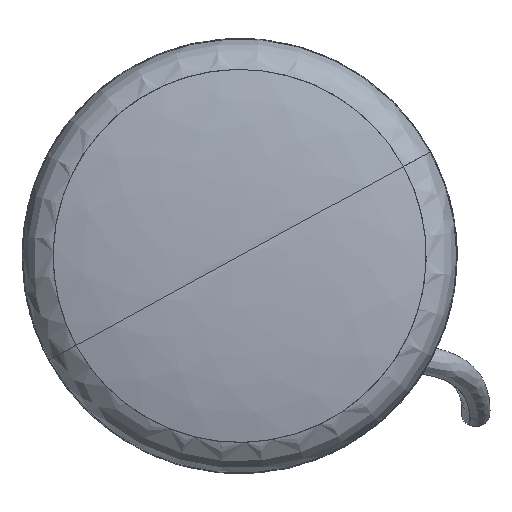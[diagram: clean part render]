
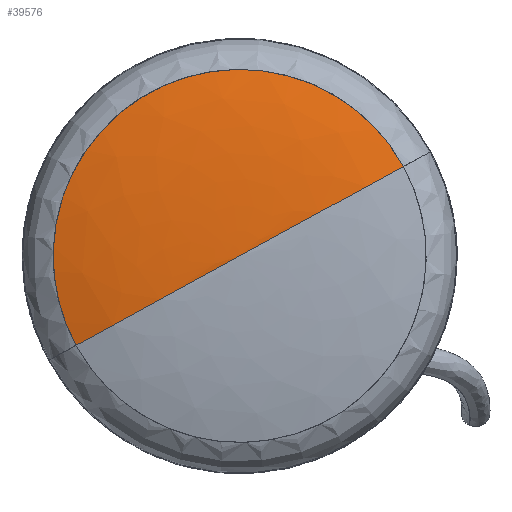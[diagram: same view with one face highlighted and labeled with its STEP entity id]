
A CAD part, top view. The second image highlights one B-rep face of the part: STEP entity #39576.
In plain terms, the highlighted free-form (B-spline) face has degree [5, 8] with [8, 9] control points.
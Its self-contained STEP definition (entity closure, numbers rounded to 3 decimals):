
#39448=CARTESIAN_POINT('Control Point',(31.208,17.049,16.424)) ;
#39449=CARTESIAN_POINT('Control Point',(24.513,29.304,16.424)) ;
#39450=CARTESIAN_POINT('Control Point',(12.316,38.554,16.424)) ;
#39451=CARTESIAN_POINT('Control Point',(-3.797,41.923,16.424)) ;
#39452=CARTESIAN_POINT('Control Point',(-20.49,37.506,16.424)) ;
#39453=CARTESIAN_POINT('Control Point',(-33.225,25.847,16.424)) ;
#39454=CARTESIAN_POINT('Control Point',(-39.096,10.468,16.424)) ;
#39455=CARTESIAN_POINT('Control Point',(-37.903,-4.794,16.424)) ;
#39456=CARTESIAN_POINT('Control Point',(-31.208,-17.049,16.424)) ;
#39457=CARTESIAN_POINT('Control Point',(29.561,16.149,16.951)) ;
#39458=CARTESIAN_POINT('Control Point',(23.22,27.758,16.951)) ;
#39459=CARTESIAN_POINT('Control Point',(11.666,36.52,16.951)) ;
#39460=CARTESIAN_POINT('Control Point',(-3.597,39.711,16.951)) ;
#39461=CARTESIAN_POINT('Control Point',(-19.408,35.527,16.951)) ;
#39462=CARTESIAN_POINT('Control Point',(-31.472,24.483,16.951)) ;
#39463=CARTESIAN_POINT('Control Point',(-37.033,9.915,16.951)) ;
#39464=CARTESIAN_POINT('Control Point',(-35.903,-4.541,16.951)) ;
#39465=CARTESIAN_POINT('Control Point',(-29.561,-16.149,16.951)) ;
#39466=CARTESIAN_POINT('Control Point',(26.237,14.333,17.797)) ;
#39467=CARTESIAN_POINT('Control Point',(20.609,24.637,17.797)) ;
#39468=CARTESIAN_POINT('Control Point',(10.354,32.413,17.797)) ;
#39469=CARTESIAN_POINT('Control Point',(-3.193,35.246,17.797)) ;
#39470=CARTESIAN_POINT('Control Point',(-17.226,31.532,17.797)) ;
#39471=CARTESIAN_POINT('Control Point',(-27.933,21.73,17.797)) ;
#39472=CARTESIAN_POINT('Control Point',(-32.869,8.8,17.797)) ;
#39473=CARTESIAN_POINT('Control Point',(-31.866,-4.03,17.797)) ;
#39474=CARTESIAN_POINT('Control Point',(-26.237,-14.333,17.797)) ;
#39475=CARTESIAN_POINT('Control Point',(19.705,10.765,18.91)) ;
#39476=CARTESIAN_POINT('Control Point',(15.478,18.503,18.91)) ;
#39477=CARTESIAN_POINT('Control Point',(7.776,24.344,18.91)) ;
#39478=CARTESIAN_POINT('Control Point',(-2.398,26.471,18.91)) ;
#39479=CARTESIAN_POINT('Control Point',(-12.937,23.682,18.91)) ;
#39480=CARTESIAN_POINT('Control Point',(-20.979,16.32,18.91)) ;
#39481=CARTESIAN_POINT('Control Point',(-24.686,6.609,18.91)) ;
#39482=CARTESIAN_POINT('Control Point',(-23.933,-3.027,18.91)) ;
#39483=CARTESIAN_POINT('Control Point',(-19.705,-10.765,18.91)) ;
#39484=CARTESIAN_POINT('Control Point',(13.483,7.366,19.399)) ;
#39485=CARTESIAN_POINT('Control Point',(10.591,12.661,19.399)) ;
#39486=CARTESIAN_POINT('Control Point',(5.321,16.657,19.399)) ;
#39487=CARTESIAN_POINT('Control Point',(-1.641,18.113,19.399)) ;
#39488=CARTESIAN_POINT('Control Point',(-8.852,16.204,19.399)) ;
#39489=CARTESIAN_POINT('Control Point',(-14.355,11.167,19.399)) ;
#39490=CARTESIAN_POINT('Control Point',(-16.891,4.522,19.399)) ;
#39491=CARTESIAN_POINT('Control Point',(-16.376,-2.071,19.399)) ;
#39492=CARTESIAN_POINT('Control Point',(-13.483,-7.366,19.399)) ;
#39493=CARTESIAN_POINT('Control Point',(7.432,4.06,19.631)) ;
#39494=CARTESIAN_POINT('Control Point',(5.838,6.979,19.631)) ;
#39495=CARTESIAN_POINT('Control Point',(2.933,9.182,19.631)) ;
#39496=CARTESIAN_POINT('Control Point',(-0.904,9.984,19.631)) ;
#39497=CARTESIAN_POINT('Control Point',(-4.88,8.932,19.631)) ;
#39498=CARTESIAN_POINT('Control Point',(-7.913,6.155,19.631)) ;
#39499=CARTESIAN_POINT('Control Point',(-9.311,2.493,19.631)) ;
#39500=CARTESIAN_POINT('Control Point',(-9.027,-1.142,19.631)) ;
#39501=CARTESIAN_POINT('Control Point',(-7.432,-4.06,19.631)) ;
#39502=CARTESIAN_POINT('Control Point',(2.959,1.617,19.691)) ;
#39503=CARTESIAN_POINT('Control Point',(2.324,2.779,19.691)) ;
#39504=CARTESIAN_POINT('Control Point',(1.168,3.656,19.691)) ;
#39505=CARTESIAN_POINT('Control Point',(-0.36,3.975,19.691)) ;
#39506=CARTESIAN_POINT('Control Point',(-1.943,3.556,19.691)) ;
#39507=CARTESIAN_POINT('Control Point',(-3.15,2.451,19.691)) ;
#39508=CARTESIAN_POINT('Control Point',(-3.707,0.992,19.691)) ;
#39509=CARTESIAN_POINT('Control Point',(-3.594,-0.455,19.691)) ;
#39510=CARTESIAN_POINT('Control Point',(-2.959,-1.617,19.691)) ;
#39511=CARTESIAN_POINT('Control Point',(0.,0.,19.691)) ;
#39512=CARTESIAN_POINT('Control Point',(0.,0.,19.691)) ;
#39513=CARTESIAN_POINT('Control Point',(0.,0.,19.691)) ;
#39514=CARTESIAN_POINT('Control Point',(0.,0.,19.691)) ;
#39515=CARTESIAN_POINT('Control Point',(0.,0.,19.691)) ;
#39516=CARTESIAN_POINT('Control Point',(0.,0.,19.691)) ;
#39517=CARTESIAN_POINT('Control Point',(0.,0.,19.691)) ;
#39518=CARTESIAN_POINT('Control Point',(0.,0.,19.691)) ;
#39519=CARTESIAN_POINT('Control Point',(0.,0.,19.691)) ;
#39521=CARTESIAN_POINT('Control Point',(0.,0.,19.691)) ;
#39522=CARTESIAN_POINT('Control Point',(-2.959,-1.617,19.691)) ;
#39523=CARTESIAN_POINT('Control Point',(-5.941,-3.246,19.651)) ;
#39524=CARTESIAN_POINT('Control Point',(-8.952,-4.891,19.56)) ;
#39525=CARTESIAN_POINT('Control Point',(-13.526,-7.389,19.335)) ;
#39526=CARTESIAN_POINT('Control Point',(-18.218,-9.953,18.899)) ;
#39527=CARTESIAN_POINT('Control Point',(-19.798,-10.816,18.727)) ;
#39528=CARTESIAN_POINT('Control Point',(-22.991,-12.56,18.315)) ;
#39529=CARTESIAN_POINT('Control Point',(-26.252,-14.341,17.725)) ;
#39530=CARTESIAN_POINT('Control Point',(-27.899,-15.241,17.374)) ;
#39531=CARTESIAN_POINT('Control Point',(-29.561,-16.149,16.951)) ;
#39532=CARTESIAN_POINT('Control Point',(-31.208,-17.049,16.424)) ;
#39533=CARTESIAN_POINT('Vertex',(0.,0.,19.691)) ;
#39535=CARTESIAN_POINT('Vertex',(-31.208,-17.049,16.424)) ;
#39539=CARTESIAN_POINT('Control Point',(-31.208,-17.049,16.424)) ;
#39540=CARTESIAN_POINT('Control Point',(-33.886,-12.147,16.424)) ;
#39541=CARTESIAN_POINT('Control Point',(-35.601,-6.719,16.424)) ;
#39542=CARTESIAN_POINT('Control Point',(-36.216,-1.017,16.424)) ;
#39543=CARTESIAN_POINT('Control Point',(-35.175,10.321,16.424)) ;
#39544=CARTESIAN_POINT('Control Point',(-29.925,20.423,16.424)) ;
#39545=CARTESIAN_POINT('Control Point',(-26.327,24.889,16.424)) ;
#39546=CARTESIAN_POINT('Control Point',(-17.575,32.171,16.424)) ;
#39547=CARTESIAN_POINT('Control Point',(-6.719,35.602,16.424)) ;
#39548=CARTESIAN_POINT('Control Point',(-1.017,36.216,16.424)) ;
#39549=CARTESIAN_POINT('Control Point',(10.321,35.175,16.424)) ;
#39550=CARTESIAN_POINT('Control Point',(20.423,29.925,16.424)) ;
#39551=CARTESIAN_POINT('Control Point',(24.889,26.327,16.424)) ;
#39552=CARTESIAN_POINT('Control Point',(28.53,21.951,16.424)) ;
#39553=CARTESIAN_POINT('Control Point',(31.208,17.049,16.424)) ;
#39554=CARTESIAN_POINT('Vertex',(31.208,17.049,16.424)) ;
#39558=CARTESIAN_POINT('Control Point',(31.208,17.049,16.424)) ;
#39559=CARTESIAN_POINT('Control Point',(29.561,16.149,16.951)) ;
#39560=CARTESIAN_POINT('Control Point',(27.899,15.241,17.374)) ;
#39561=CARTESIAN_POINT('Control Point',(26.252,14.341,17.725)) ;
#39562=CARTESIAN_POINT('Control Point',(22.991,12.56,18.315)) ;
#39563=CARTESIAN_POINT('Control Point',(19.798,10.816,18.727)) ;
#39564=CARTESIAN_POINT('Control Point',(18.218,9.953,18.899)) ;
#39565=CARTESIAN_POINT('Control Point',(13.526,7.389,19.335)) ;
#39566=CARTESIAN_POINT('Control Point',(8.952,4.891,19.56)) ;
#39567=CARTESIAN_POINT('Control Point',(5.941,3.246,19.651)) ;
#39568=CARTESIAN_POINT('Control Point',(2.959,1.617,19.691)) ;
#39569=CARTESIAN_POINT('Control Point',(0.,0.,19.691)) ;
#39572=ORIENTED_EDGE('',*,*,#39537,.T.) ;
#39573=ORIENTED_EDGE('',*,*,#39556,.T.) ;
#39574=ORIENTED_EDGE('',*,*,#39570,.T.) ;
#39576=ADVANCED_FACE('Surface.492 ( SURFACE.522 - wsp *MASTER -  )',(#39575),#39447,.T.) ;
#39520=B_SPLINE_CURVE_WITH_KNOTS('',5,(#39521,#39522,#39523,#39524,#39525,#39526,#39527,#39528,#39529,#39530,#39531,#39532),.UNSPECIFIED.,.F.,.U.,(6,3,3,6),(0.,18.396,27.594,36.792),.UNSPECIFIED.) ;
#39538=B_SPLINE_CURVE_WITH_KNOTS('',5,(#39539,#39540,#39541,#39542,#39543,#39544,#39545,#39546,#39547,#39548,#39549,#39550,#39551,#39552,#39553),.UNSPECIFIED.,.F.,.U.,(6,3,3,3,6),(0.,16.337,32.674,49.011,65.348),.UNSPECIFIED.) ;
#39557=B_SPLINE_CURVE_WITH_KNOTS('',5,(#39558,#39559,#39560,#39561,#39562,#39563,#39564,#39565,#39566,#39567,#39568,#39569),.UNSPECIFIED.,.F.,.U.,(6,3,3,6),(0.,9.198,18.396,36.792),.UNSPECIFIED.) ;
#39447=B_SPLINE_SURFACE_WITH_KNOTS('',5,8,((#39448,#39449,#39450,#39451,#39452,#39453,#39454,#39455,#39456),(#39457,#39458,#39459,#39460,#39461,#39462,#39463,#39464,#39465),(#39466,#39467,#39468,#39469,#39470,#39471,#39472,#39473,#39474),(#39475,#39476,#39477,#39478,#39479,#39480,#39481,#39482,#39483),(#39484,#39485,#39486,#39487,#39488,#39489,#39490,#39491,#39492),(#39493,#39494,#39495,#39496,#39497,#39498,#39499,#39500,#39501),(#39502,#39503,#39504,#39505,#39506,#39507,#39508,#39509,#39510),(#39511,#39512,#39513,#39514,#39515,#39516,#39517,#39518,#39519)),.UNSPECIFIED.,.F.,.F.,.U.,(6,1,1,6),(9,9),(0.,9.198,18.396,36.792),(0.,65.348),.UNSPECIFIED.) ;
#39537=EDGE_CURVE('',#39534,#39536,#39520,.T.) ;
#39556=EDGE_CURVE('',#39536,#39555,#39538,.T.) ;
#39570=EDGE_CURVE('',#39555,#39534,#39557,.T.) ;
#39571=EDGE_LOOP('',(#39572,#39573,#39574)) ;
#39575=FACE_OUTER_BOUND('',#39571,.T.) ;
#39534=VERTEX_POINT('',#39533) ;
#39536=VERTEX_POINT('',#39535) ;
#39555=VERTEX_POINT('',#39554) ;
